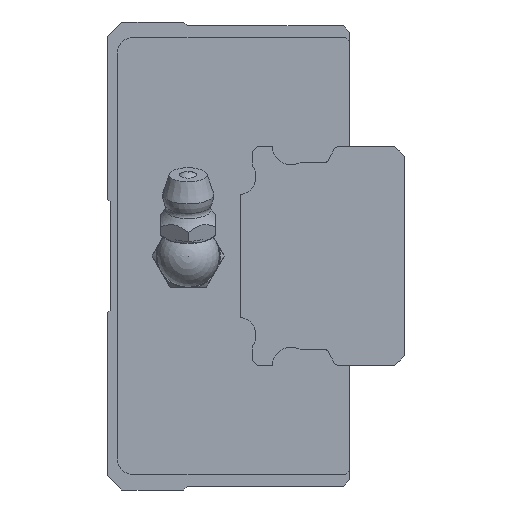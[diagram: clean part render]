
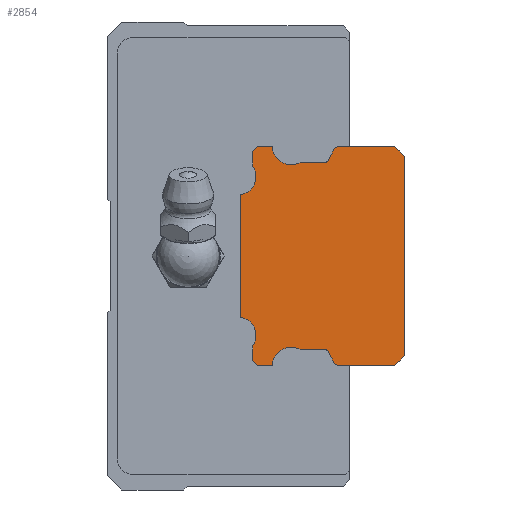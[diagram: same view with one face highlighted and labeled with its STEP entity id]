
A CAD part, left-side view. The second image highlights one B-rep face of the part: STEP entity #2854.
In plain terms, the highlighted planar face has unit normal (-1, 0, 0).
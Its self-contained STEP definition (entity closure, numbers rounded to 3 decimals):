
#93=CIRCLE('',#3034,0.1);
#95=CIRCLE('',#3037,2.4);
#97=CIRCLE('',#3041,0.5);
#99=CIRCLE('',#3045,0.5);
#105=CIRCLE('',#3057,0.5);
#107=CIRCLE('',#3061,0.5);
#109=CIRCLE('',#3065,2.4);
#111=CIRCLE('',#3068,0.1);
#113=CIRCLE('',#3072,0.2);
#115=CIRCLE('',#3076,0.2);
#117=CIRCLE('',#3080,2.4);
#119=CIRCLE('',#3083,0.2);
#125=CIRCLE('',#3091,0.2);
#127=CIRCLE('',#3094,2.4);
#129=CIRCLE('',#3098,0.2);
#131=CIRCLE('',#3102,0.2);
#454=ORIENTED_EDGE('',*,*,#1090,.F.);
#455=ORIENTED_EDGE('',*,*,#1192,.F.);
#456=ORIENTED_EDGE('',*,*,#1189,.F.);
#457=ORIENTED_EDGE('',*,*,#1186,.F.);
#458=ORIENTED_EDGE('',*,*,#1183,.F.);
#459=ORIENTED_EDGE('',*,*,#1180,.T.);
#460=ORIENTED_EDGE('',*,*,#1177,.F.);
#461=ORIENTED_EDGE('',*,*,#1174,.F.);
#462=ORIENTED_EDGE('',*,*,#1167,.F.);
#463=ORIENTED_EDGE('',*,*,#1164,.T.);
#464=ORIENTED_EDGE('',*,*,#1161,.F.);
#465=ORIENTED_EDGE('',*,*,#1158,.F.);
#466=ORIENTED_EDGE('',*,*,#1155,.F.);
#467=ORIENTED_EDGE('',*,*,#1152,.F.);
#468=ORIENTED_EDGE('',*,*,#1149,.F.);
#469=ORIENTED_EDGE('',*,*,#1146,.F.);
#470=ORIENTED_EDGE('',*,*,#1143,.T.);
#471=ORIENTED_EDGE('',*,*,#1140,.F.);
#472=ORIENTED_EDGE('',*,*,#1137,.T.);
#473=ORIENTED_EDGE('',*,*,#1134,.F.);
#474=ORIENTED_EDGE('',*,*,#1131,.F.);
#475=ORIENTED_EDGE('',*,*,#1128,.F.);
#476=ORIENTED_EDGE('',*,*,#1125,.F.);
#477=ORIENTED_EDGE('',*,*,#1122,.F.);
#478=ORIENTED_EDGE('',*,*,#1115,.F.);
#479=ORIENTED_EDGE('',*,*,#1112,.F.);
#480=ORIENTED_EDGE('',*,*,#1109,.F.);
#481=ORIENTED_EDGE('',*,*,#1106,.F.);
#482=ORIENTED_EDGE('',*,*,#1103,.T.);
#483=ORIENTED_EDGE('',*,*,#1100,.F.);
#484=ORIENTED_EDGE('',*,*,#1097,.T.);
#485=ORIENTED_EDGE('',*,*,#1094,.F.);
#1090=EDGE_CURVE('',#1492,#1493,#1781,.T.);
#1094=EDGE_CURVE('',#1493,#1496,#93,.T.);
#1097=EDGE_CURVE('',#1498,#1496,#95,.T.);
#1100=EDGE_CURVE('',#1498,#1500,#1787,.T.);
#1103=EDGE_CURVE('',#1502,#1500,#97,.T.);
#1106=EDGE_CURVE('',#1502,#1504,#1791,.T.);
#1109=EDGE_CURVE('',#1504,#1506,#99,.T.);
#1112=EDGE_CURVE('',#1506,#1508,#1795,.T.);
#1115=EDGE_CURVE('',#1508,#1510,#1798,.T.);
#1122=EDGE_CURVE('',#1510,#1516,#1801,.T.);
#1125=EDGE_CURVE('',#1516,#1518,#1804,.T.);
#1128=EDGE_CURVE('',#1518,#1520,#1807,.T.);
#1131=EDGE_CURVE('',#1520,#1522,#105,.T.);
#1134=EDGE_CURVE('',#1522,#1524,#1811,.T.);
#1137=EDGE_CURVE('',#1526,#1524,#107,.T.);
#1140=EDGE_CURVE('',#1526,#1528,#1815,.T.);
#1143=EDGE_CURVE('',#1530,#1528,#109,.T.);
#1146=EDGE_CURVE('',#1530,#1532,#111,.T.);
#1149=EDGE_CURVE('',#1532,#1534,#1820,.T.);
#1152=EDGE_CURVE('',#1534,#1536,#113,.T.);
#1155=EDGE_CURVE('',#1536,#1538,#1824,.T.);
#1158=EDGE_CURVE('',#1538,#1540,#115,.T.);
#1161=EDGE_CURVE('',#1540,#1542,#1828,.T.);
#1164=EDGE_CURVE('',#1544,#1542,#117,.T.);
#1167=EDGE_CURVE('',#1544,#1546,#119,.T.);
#1174=EDGE_CURVE('',#1546,#1552,#1833,.T.);
#1177=EDGE_CURVE('',#1552,#1554,#125,.T.);
#1180=EDGE_CURVE('',#1556,#1554,#127,.T.);
#1183=EDGE_CURVE('',#1556,#1558,#1838,.T.);
#1186=EDGE_CURVE('',#1558,#1560,#129,.T.);
#1189=EDGE_CURVE('',#1560,#1562,#1842,.T.);
#1192=EDGE_CURVE('',#1562,#1492,#131,.T.);
#1492=VERTEX_POINT('',#4222);
#1493=VERTEX_POINT('',#4223);
#1496=VERTEX_POINT('',#4231);
#1498=VERTEX_POINT('',#4237);
#1500=VERTEX_POINT('',#4243);
#1502=VERTEX_POINT('',#4249);
#1504=VERTEX_POINT('',#4255);
#1506=VERTEX_POINT('',#4261);
#1508=VERTEX_POINT('',#4267);
#1510=VERTEX_POINT('',#4273);
#1516=VERTEX_POINT('',#4287);
#1518=VERTEX_POINT('',#4293);
#1520=VERTEX_POINT('',#4299);
#1522=VERTEX_POINT('',#4305);
#1524=VERTEX_POINT('',#4311);
#1526=VERTEX_POINT('',#4317);
#1528=VERTEX_POINT('',#4323);
#1530=VERTEX_POINT('',#4329);
#1532=VERTEX_POINT('',#4335);
#1534=VERTEX_POINT('',#4341);
#1536=VERTEX_POINT('',#4347);
#1538=VERTEX_POINT('',#4353);
#1540=VERTEX_POINT('',#4359);
#1542=VERTEX_POINT('',#4365);
#1544=VERTEX_POINT('',#4371);
#1546=VERTEX_POINT('',#4377);
#1552=VERTEX_POINT('',#4391);
#1554=VERTEX_POINT('',#4397);
#1556=VERTEX_POINT('',#4403);
#1558=VERTEX_POINT('',#4409);
#1560=VERTEX_POINT('',#4415);
#1562=VERTEX_POINT('',#4421);
#1781=LINE('',#4221,#2021);
#1787=LINE('',#4242,#2027);
#1791=LINE('',#4254,#2031);
#1795=LINE('',#4266,#2035);
#1798=LINE('',#4272,#2038);
#1801=LINE('',#4286,#2041);
#1804=LINE('',#4292,#2044);
#1807=LINE('',#4298,#2047);
#1811=LINE('',#4310,#2051);
#1815=LINE('',#4322,#2055);
#1820=LINE('',#4340,#2060);
#1824=LINE('',#4352,#2064);
#1828=LINE('',#4364,#2068);
#1833=LINE('',#4390,#2073);
#1838=LINE('',#4408,#2078);
#1842=LINE('',#4420,#2082);
#2021=VECTOR('',#3351,1000.);
#2027=VECTOR('',#3371,1000.);
#2031=VECTOR('',#3383,1000.);
#2035=VECTOR('',#3395,1000.);
#2038=VECTOR('',#3400,1000.);
#2041=VECTOR('',#3413,1000.);
#2044=VECTOR('',#3418,1000.);
#2047=VECTOR('',#3423,1000.);
#2051=VECTOR('',#3435,1000.);
#2055=VECTOR('',#3447,1000.);
#2060=VECTOR('',#3466,1000.);
#2064=VECTOR('',#3478,1000.);
#2068=VECTOR('',#3490,1000.);
#2073=VECTOR('',#3517,1000.);
#2078=VECTOR('',#3536,1000.);
#2082=VECTOR('',#3548,1000.);
#2302=EDGE_LOOP('',(#454,#455,#456,#457,#458,#459,#460,#461,#462,#463,#464,
#465,#466,#467,#468,#469,#470,#471,#472,#473,#474,#475,#476,#477,#478,#479,
#480,#481,#482,#483,#484,#485));
#2533=FACE_BOUND('',#2302,.T.);
#2746=PLANE('',#3105);
#2854=ADVANCED_FACE('',(#2533),#2746,.F.);
#3034=AXIS2_PLACEMENT_3D('',#4230,#3357,#3358);
#3037=AXIS2_PLACEMENT_3D('',#4236,#3364,#3365);
#3041=AXIS2_PLACEMENT_3D('',#4248,#3376,#3377);
#3045=AXIS2_PLACEMENT_3D('',#4260,#3388,#3389);
#3057=AXIS2_PLACEMENT_3D('',#4304,#3428,#3429);
#3061=AXIS2_PLACEMENT_3D('',#4316,#3440,#3441);
#3065=AXIS2_PLACEMENT_3D('',#4328,#3452,#3453);
#3068=AXIS2_PLACEMENT_3D('',#4334,#3459,#3460);
#3072=AXIS2_PLACEMENT_3D('',#4346,#3471,#3472);
#3076=AXIS2_PLACEMENT_3D('',#4358,#3483,#3484);
#3080=AXIS2_PLACEMENT_3D('',#4370,#3495,#3496);
#3083=AXIS2_PLACEMENT_3D('',#4376,#3502,#3503);
#3091=AXIS2_PLACEMENT_3D('',#4396,#3522,#3523);
#3094=AXIS2_PLACEMENT_3D('',#4402,#3529,#3530);
#3098=AXIS2_PLACEMENT_3D('',#4414,#3541,#3542);
#3102=AXIS2_PLACEMENT_3D('',#4426,#3553,#3554);
#3105=AXIS2_PLACEMENT_3D('',#4429,#3559,#3560);
#3351=DIRECTION('',(0.,-1.,0.));
#3357=DIRECTION('',(1.,0.,0.));
#3358=DIRECTION('',(0.,0.,-1.));
#3364=DIRECTION('',(1.,0.,0.));
#3365=DIRECTION('',(0.,0.,-1.));
#3371=DIRECTION('',(0.,-1.,0.));
#3376=DIRECTION('',(1.,0.,0.));
#3377=DIRECTION('',(0.,0.,-1.));
#3383=DIRECTION('',(0.,-0.486,0.874));
#3388=DIRECTION('',(1.,0.,0.));
#3389=DIRECTION('',(0.,0.,-1.));
#3395=DIRECTION('',(0.,-1.,0.));
#3400=DIRECTION('',(0.,-0.707,-0.707));
#3413=DIRECTION('',(0.,0.,-1.));
#3418=DIRECTION('',(0.,0.707,-0.707));
#3423=DIRECTION('',(0.,1.,0.));
#3428=DIRECTION('',(1.,0.,0.));
#3429=DIRECTION('',(0.,0.,-1.));
#3435=DIRECTION('',(0.,0.486,0.874));
#3440=DIRECTION('',(1.,0.,0.));
#3441=DIRECTION('',(0.,0.,-1.));
#3447=DIRECTION('',(0.,1.,0.));
#3452=DIRECTION('',(1.,0.,0.));
#3453=DIRECTION('',(0.,0.,-1.));
#3459=DIRECTION('',(1.,0.,0.));
#3460=DIRECTION('',(0.,0.,-1.));
#3466=DIRECTION('',(0.,1.,0.));
#3471=DIRECTION('',(1.,0.,0.));
#3472=DIRECTION('',(0.,0.,-1.));
#3478=DIRECTION('',(0.,0.707,0.707));
#3483=DIRECTION('',(1.,0.,0.));
#3484=DIRECTION('',(0.,0.,-1.));
#3490=DIRECTION('',(0.,0.,1.));
#3495=DIRECTION('',(1.,0.,0.));
#3496=DIRECTION('',(0.,0.,-1.));
#3502=DIRECTION('',(1.,0.,0.));
#3503=DIRECTION('',(0.,0.,-1.));
#3517=DIRECTION('',(0.,0.,1.));
#3522=DIRECTION('',(1.,0.,0.));
#3523=DIRECTION('',(0.,0.,-1.));
#3529=DIRECTION('',(1.,0.,0.));
#3530=DIRECTION('',(0.,0.,-1.));
#3536=DIRECTION('',(0.,0.,1.));
#3541=DIRECTION('',(1.,0.,0.));
#3542=DIRECTION('',(0.,0.,-1.));
#3548=DIRECTION('',(0.,-0.707,0.707));
#3553=DIRECTION('',(1.,0.,0.));
#3554=DIRECTION('',(0.,0.,-1.));
#3559=DIRECTION('',(1.,0.,0.));
#3560=DIRECTION('',(0.,0.,-1.));
#4221=CARTESIAN_POINT('',(-20.,18.8,14.));
#4222=CARTESIAN_POINT('',(-20.,18.8,14.));
#4223=CARTESIAN_POINT('',(-20.,16.992,14.));
#4230=CARTESIAN_POINT('',(-20.,16.992,13.9));
#4231=CARTESIAN_POINT('',(-20.,16.892,13.908));
#4236=CARTESIAN_POINT('',(-20.,14.5,14.1));
#4237=CARTESIAN_POINT('',(-20.,13.338,12.));
#4242=CARTESIAN_POINT('',(-20.,13.338,12.));
#4243=CARTESIAN_POINT('',(-20.,10.2,12.));
#4248=CARTESIAN_POINT('',(-20.,10.2,12.5));
#4249=CARTESIAN_POINT('',(-20.,9.763,12.257));
#4254=CARTESIAN_POINT('',(-20.,9.763,12.257));
#4255=CARTESIAN_POINT('',(-20.,8.937,13.743));
#4260=CARTESIAN_POINT('',(-20.,8.5,13.5));
#4261=CARTESIAN_POINT('',(-20.,8.5,14.));
#4266=CARTESIAN_POINT('',(-20.,8.5,14.));
#4267=CARTESIAN_POINT('',(-20.,1.2,14.));
#4272=CARTESIAN_POINT('',(-20.,1.2,14.));
#4273=CARTESIAN_POINT('',(-20.,0.,12.8));
#4286=CARTESIAN_POINT('',(-20.,0.,12.8));
#4287=CARTESIAN_POINT('',(-20.,0.,-12.8));
#4292=CARTESIAN_POINT('',(-20.,0.,-12.8));
#4293=CARTESIAN_POINT('',(-20.,1.2,-14.));
#4298=CARTESIAN_POINT('',(-20.,1.2,-14.));
#4299=CARTESIAN_POINT('',(-20.,8.5,-14.));
#4304=CARTESIAN_POINT('',(-20.,8.5,-13.5));
#4305=CARTESIAN_POINT('',(-20.,8.937,-13.743));
#4310=CARTESIAN_POINT('',(-20.,8.937,-13.743));
#4311=CARTESIAN_POINT('',(-20.,9.763,-12.257));
#4316=CARTESIAN_POINT('',(-20.,10.2,-12.5));
#4317=CARTESIAN_POINT('',(-20.,10.2,-12.));
#4322=CARTESIAN_POINT('',(-20.,10.2,-12.));
#4323=CARTESIAN_POINT('',(-20.,13.338,-12.));
#4328=CARTESIAN_POINT('',(-20.,14.5,-14.1));
#4329=CARTESIAN_POINT('',(-20.,16.892,-13.908));
#4334=CARTESIAN_POINT('',(-20.,16.992,-13.9));
#4335=CARTESIAN_POINT('',(-20.,16.992,-14.));
#4340=CARTESIAN_POINT('',(-20.,16.992,-14.));
#4341=CARTESIAN_POINT('',(-20.,18.8,-14.));
#4346=CARTESIAN_POINT('',(-20.,18.8,-13.8));
#4347=CARTESIAN_POINT('',(-20.,18.941,-13.941));
#4352=CARTESIAN_POINT('',(-20.,18.941,-13.941));
#4353=CARTESIAN_POINT('',(-20.,19.341,-13.541));
#4358=CARTESIAN_POINT('',(-20.,19.2,-13.4));
#4359=CARTESIAN_POINT('',(-20.,19.4,-13.4));
#4364=CARTESIAN_POINT('',(-20.,19.4,-13.4));
#4365=CARTESIAN_POINT('',(-20.,19.4,-11.527));
#4370=CARTESIAN_POINT('',(-20.,21.4,-10.2));
#4371=CARTESIAN_POINT('',(-20.,20.846,-7.865));
#4376=CARTESIAN_POINT('',(-20.,20.8,-7.67));
#4377=CARTESIAN_POINT('',(-20.,21.,-7.67));
#4390=CARTESIAN_POINT('',(-20.,21.,-7.67));
#4391=CARTESIAN_POINT('',(-20.,21.,7.67));
#4396=CARTESIAN_POINT('',(-20.,20.8,7.67));
#4397=CARTESIAN_POINT('',(-20.,20.846,7.865));
#4402=CARTESIAN_POINT('',(-20.,21.4,10.2));
#4403=CARTESIAN_POINT('',(-20.,19.4,11.527));
#4408=CARTESIAN_POINT('',(-20.,19.4,11.527));
#4409=CARTESIAN_POINT('',(-20.,19.4,13.4));
#4414=CARTESIAN_POINT('',(-20.,19.2,13.4));
#4415=CARTESIAN_POINT('',(-20.,19.341,13.541));
#4420=CARTESIAN_POINT('',(-20.,19.341,13.541));
#4421=CARTESIAN_POINT('',(-20.,18.941,13.941));
#4426=CARTESIAN_POINT('',(-20.,18.8,13.8));
#4429=CARTESIAN_POINT('',(-20.,16.992,13.9));
